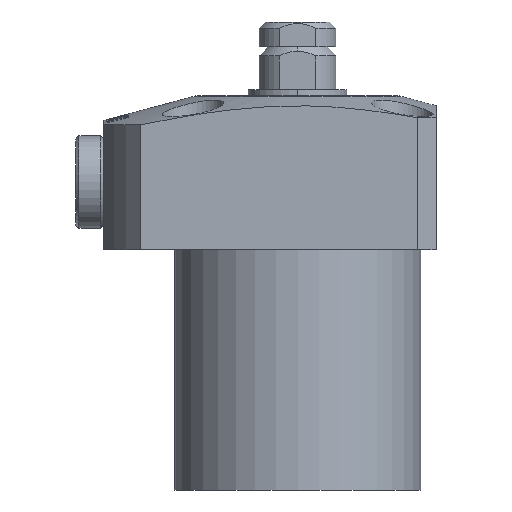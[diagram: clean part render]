
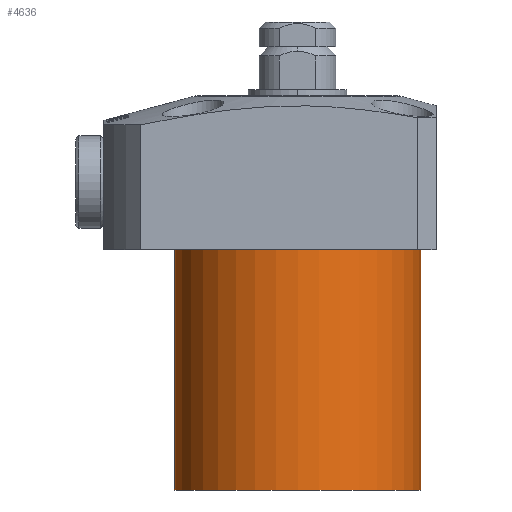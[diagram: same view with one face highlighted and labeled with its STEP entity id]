
A CAD part, front view. The second image highlights one B-rep face of the part: STEP entity #4636.
In plain terms, the highlighted cylindrical face has radius 20 mm (diameter 40 mm), a partial arc.
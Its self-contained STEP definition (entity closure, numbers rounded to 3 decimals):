
#200 = LINE ( 'NONE', #4016, #7720 ) ;
#422 = ORIENTED_EDGE ( 'NONE', *, *, #4408, .F. ) ;
#625 = DIRECTION ( 'NONE',  ( 0., 0., 1. ) ) ;
#969 = EDGE_CURVE ( 'NONE', #6499, #4178, #4283, .T. ) ;
#1260 = AXIS2_PLACEMENT_3D ( 'NONE', #6075, #625, #6972 ) ;
#2082 = AXIS2_PLACEMENT_3D ( 'NONE', #9399, #3981, #10283 ) ;
#2178 = DIRECTION ( 'NONE',  ( 0., 0., 1. ) ) ;
#2350 = CARTESIAN_POINT ( 'NONE',  ( -20., 0., 0. ) ) ;
#3103 = VERTEX_POINT ( 'NONE', #6275 ) ;
#3666 = CARTESIAN_POINT ( 'NONE',  ( -20., 0., -39. ) ) ;
#3762 = FACE_OUTER_BOUND ( 'NONE', #7055, .T. ) ;
#3981 = DIRECTION ( 'NONE',  ( 0., 0., 1. ) ) ;
#4016 = CARTESIAN_POINT ( 'NONE',  ( 20., 0., -39. ) ) ;
#4178 = VERTEX_POINT ( 'NONE', #2350 ) ;
#4283 = LINE ( 'NONE', #8897, #6417 ) ;
#4408 = EDGE_CURVE ( 'NONE', #4178, #8762, #9688, .T. ) ;
#4636 = ADVANCED_FACE ( 'NONE', ( #3762 ), #8281, .T. ) ;
#4666 = CARTESIAN_POINT ( 'NONE',  ( 0., 0., -39. ) ) ;
#5583 = DIRECTION ( 'NONE',  ( 1., 0., 0. ) ) ;
#6075 = CARTESIAN_POINT ( 'NONE',  ( 0., 0., -39. ) ) ;
#6230 = DIRECTION ( 'NONE',  ( 0., 0., 1. ) ) ;
#6275 = CARTESIAN_POINT ( 'NONE',  ( 20., 0., -39. ) ) ;
#6417 = VECTOR ( 'NONE', #6230, 1000. ) ;
#6499 = VERTEX_POINT ( 'NONE', #3666 ) ;
#6935 = EDGE_CURVE ( 'NONE', #6499, #3103, #10944, .T. ) ;
#6972 = DIRECTION ( 'NONE',  ( 1., 0., 0. ) ) ;
#7055 = EDGE_LOOP ( 'NONE', ( #7700, #7511, #7783, #422 ) ) ;
#7511 = ORIENTED_EDGE ( 'NONE', *, *, #6935, .T. ) ;
#7700 = ORIENTED_EDGE ( 'NONE', *, *, #969, .F. ) ;
#7720 = VECTOR ( 'NONE', #2178, 1000. ) ;
#7783 = ORIENTED_EDGE ( 'NONE', *, *, #11610, .T. ) ;
#8281 = CYLINDRICAL_SURFACE ( 'NONE', #1260, 20. ) ;
#8762 = VERTEX_POINT ( 'NONE', #8999 ) ;
#8897 = CARTESIAN_POINT ( 'NONE',  ( -20., 0., -39. ) ) ;
#8999 = CARTESIAN_POINT ( 'NONE',  ( 20., 0., 0. ) ) ;
#9191 = AXIS2_PLACEMENT_3D ( 'NONE', #4666, #10924, #5583 ) ;
#9399 = CARTESIAN_POINT ( 'NONE',  ( 0., 0., 0. ) ) ;
#9688 = CIRCLE ( 'NONE', #2082, 20. ) ;
#10283 = DIRECTION ( 'NONE',  ( 1., 0., 0. ) ) ;
#10924 = DIRECTION ( 'NONE',  ( 0., 0., 1. ) ) ;
#10944 = CIRCLE ( 'NONE', #9191, 20. ) ;
#11610 = EDGE_CURVE ( 'NONE', #3103, #8762, #200, .T. ) ;
